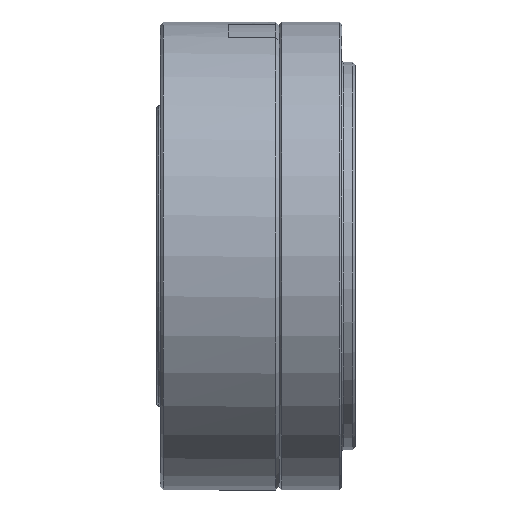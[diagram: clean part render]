
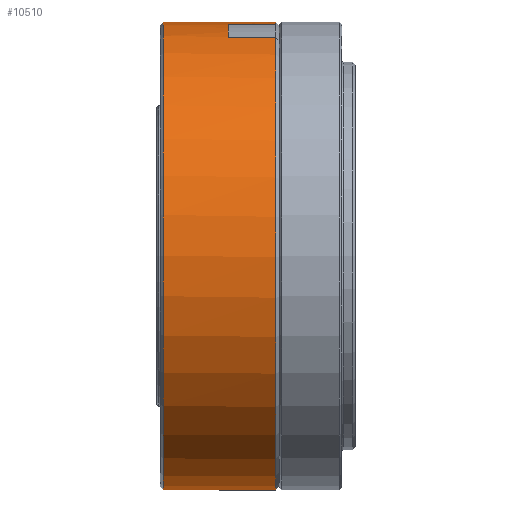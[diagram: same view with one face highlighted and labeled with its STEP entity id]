
A CAD part, top view. The second image highlights one B-rep face of the part: STEP entity #10510.
In plain terms, the highlighted cylindrical face has radius 35 mm (diameter 70 mm), a partial arc.
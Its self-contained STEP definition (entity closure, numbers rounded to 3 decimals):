
#167 = DIRECTION ( 'NONE',  ( -1., 0., 0. ) ) ;
#595 = VECTOR ( 'NONE', #13799, 1000. ) ;
#823 = CARTESIAN_POINT ( 'NONE',  ( -0.3, 0., 0. ) ) ;
#906 = ORIENTED_EDGE ( 'NONE', *, *, #14535, .F. ) ;
#1496 = EDGE_CURVE ( 'NONE', #8038, #4275, #13947, .T. ) ;
#1504 = AXIS2_PLACEMENT_3D ( 'NONE', #2874, #11842, #4185 ) ;
#2080 = DIRECTION ( 'NONE',  ( 0., 1., 0. ) ) ;
#2094 = EDGE_LOOP ( 'NONE', ( #13721, #2456, #14838, #906, #3144, #5169, #11148, #3564 ) ) ;
#2456 = ORIENTED_EDGE ( 'NONE', *, *, #1496, .T. ) ;
#2476 = CARTESIAN_POINT ( 'NONE',  ( 6.8, 34.544, 5.633 ) ) ;
#2526 = CIRCLE ( 'NONE', #7810, 35. ) ;
#2697 = CIRCLE ( 'NONE', #11664, 35. ) ;
#2874 = CARTESIAN_POINT ( 'NONE',  ( 6.8, 0., 0. ) ) ;
#3144 = ORIENTED_EDGE ( 'NONE', *, *, #12088, .T. ) ;
#3302 = CARTESIAN_POINT ( 'NONE',  ( -10., 0., 0. ) ) ;
#3534 = CARTESIAN_POINT ( 'NONE',  ( -0.3, 34.544, 5.633 ) ) ;
#3564 = ORIENTED_EDGE ( 'NONE', *, *, #9979, .T. ) ;
#4185 = DIRECTION ( 'NONE',  ( 0., -1., 0. ) ) ;
#4259 = CYLINDRICAL_SURFACE ( 'NONE', #14832, 35. ) ;
#4275 = VERTEX_POINT ( 'NONE', #4659 ) ;
#4602 = DIRECTION ( 'NONE',  ( 0., -1., 0. ) ) ;
#4659 = CARTESIAN_POINT ( 'NONE',  ( -10., 35., 0. ) ) ;
#4700 = DIRECTION ( 'NONE',  ( 0., -1., 0. ) ) ;
#4880 = EDGE_CURVE ( 'NONE', #10056, #4275, #2526, .T. ) ;
#5169 = ORIENTED_EDGE ( 'NONE', *, *, #9440, .F. ) ;
#5372 = AXIS2_PLACEMENT_3D ( 'NONE', #7830, #167, #9112 ) ;
#5723 = VECTOR ( 'NONE', #8747, 1000. ) ;
#5848 = DIRECTION ( 'NONE',  ( -1., 0., 0. ) ) ;
#5878 = EDGE_CURVE ( 'NONE', #11851, #11454, #2697, .T. ) ;
#6732 = CARTESIAN_POINT ( 'NONE',  ( -0.3, 32.732, 12.394 ) ) ;
#7023 = VERTEX_POINT ( 'NONE', #11889 ) ;
#7547 = CARTESIAN_POINT ( 'NONE',  ( -0.3, 34.544, 5.633 ) ) ;
#7810 = AXIS2_PLACEMENT_3D ( 'NONE', #3302, #12252, #4602 ) ;
#7830 = CARTESIAN_POINT ( 'NONE',  ( 6.8, 0., 0. ) ) ;
#8038 = VERTEX_POINT ( 'NONE', #13778 ) ;
#8455 = CIRCLE ( 'NONE', #1504, 35. ) ;
#8463 = EDGE_CURVE ( 'NONE', #13109, #8038, #11152, .T. ) ;
#8595 = DIRECTION ( 'NONE',  ( -1., 0., 0. ) ) ;
#8747 = DIRECTION ( 'NONE',  ( 1., 0., 0. ) ) ;
#8773 = CARTESIAN_POINT ( 'NONE',  ( -13.9, -35., 0. ) ) ;
#9112 = DIRECTION ( 'NONE',  ( 0., -1., 0. ) ) ;
#9440 = EDGE_CURVE ( 'NONE', #11454, #16144, #15492, .T. ) ;
#9753 = DIRECTION ( 'NONE',  ( 1., 0., 0. ) ) ;
#9979 = EDGE_CURVE ( 'NONE', #11851, #13109, #13861, .T. ) ;
#10056 = VERTEX_POINT ( 'NONE', #11326 ) ;
#10510 = ADVANCED_FACE ( 'NONE', ( #11466 ), #4259, .T. ) ;
#10606 = VECTOR ( 'NONE', #5848, 1000. ) ;
#10786 = LINE ( 'NONE', #8773, #595 ) ;
#11148 = ORIENTED_EDGE ( 'NONE', *, *, #5878, .F. ) ;
#11152 = CIRCLE ( 'NONE', #5372, 35. ) ;
#11219 = DIRECTION ( 'NONE',  ( 1., 0., 0. ) ) ;
#11326 = CARTESIAN_POINT ( 'NONE',  ( -10., -35., 0. ) ) ;
#11454 = VERTEX_POINT ( 'NONE', #6732 ) ;
#11466 = FACE_OUTER_BOUND ( 'NONE', #2094, .T. ) ;
#11664 = AXIS2_PLACEMENT_3D ( 'NONE', #823, #9753, #2080 ) ;
#11842 = DIRECTION ( 'NONE',  ( -1., 0., 0. ) ) ;
#11851 = VERTEX_POINT ( 'NONE', #7547 ) ;
#11889 = CARTESIAN_POINT ( 'NONE',  ( 6.8, -35., 0. ) ) ;
#12088 = EDGE_CURVE ( 'NONE', #7023, #16144, #8455, .T. ) ;
#12252 = DIRECTION ( 'NONE',  ( -1., 0., 0. ) ) ;
#13109 = VERTEX_POINT ( 'NONE', #2476 ) ;
#13655 = CARTESIAN_POINT ( 'NONE',  ( 6.8, 32.732, 12.394 ) ) ;
#13721 = ORIENTED_EDGE ( 'NONE', *, *, #8463, .T. ) ;
#13778 = CARTESIAN_POINT ( 'NONE',  ( 6.8, 35., 0. ) ) ;
#13799 = DIRECTION ( 'NONE',  ( -1., 0., 0. ) ) ;
#13861 = LINE ( 'NONE', #3534, #14669 ) ;
#13947 = LINE ( 'NONE', #16009, #10606 ) ;
#14535 = EDGE_CURVE ( 'NONE', #7023, #10056, #10786, .T. ) ;
#14669 = VECTOR ( 'NONE', #11219, 1000. ) ;
#14832 = AXIS2_PLACEMENT_3D ( 'NONE', #16192, #8595, #4700 ) ;
#14838 = ORIENTED_EDGE ( 'NONE', *, *, #4880, .F. ) ;
#15492 = LINE ( 'NONE', #16350, #5723 ) ;
#16009 = CARTESIAN_POINT ( 'NONE',  ( -13.9, 35., 0. ) ) ;
#16144 = VERTEX_POINT ( 'NONE', #13655 ) ;
#16192 = CARTESIAN_POINT ( 'NONE',  ( -13.9, 0., 0. ) ) ;
#16350 = CARTESIAN_POINT ( 'NONE',  ( -0.3, 32.732, 12.394 ) ) ;
